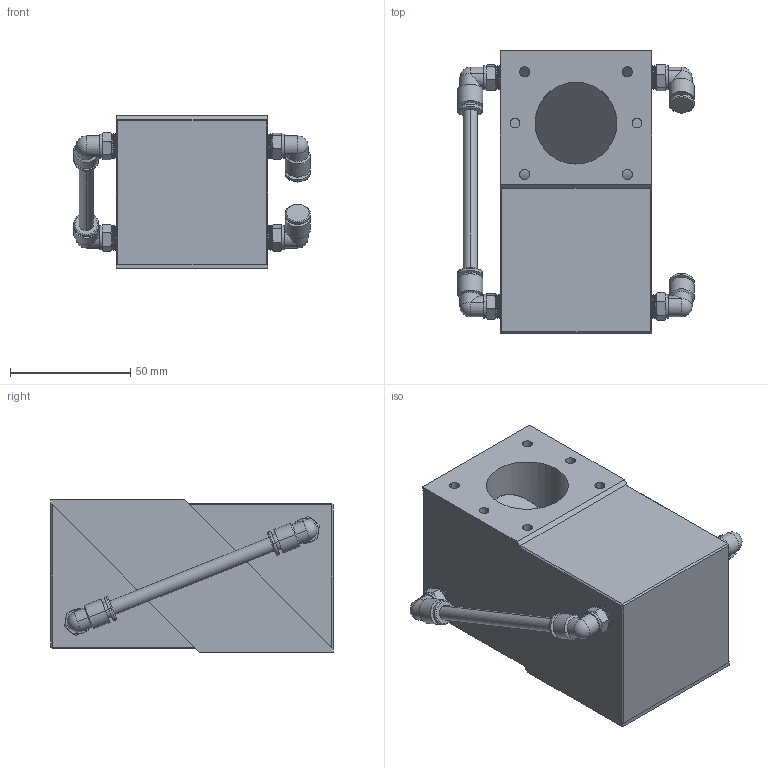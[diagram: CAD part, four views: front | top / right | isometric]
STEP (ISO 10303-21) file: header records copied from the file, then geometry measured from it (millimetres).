
FILE_DESCRIPTION (( 'STEP AP214' ), '1' );
FILE_NAME ('CPU-38-9.4.STEP', '2017-03-09T13:56:29', ( '' ), ( '' ), 'SwSTEP 2.0', 'SolidWorks 2017', '' );
FILE_SCHEMA (( 'AUTOMOTIVE_DESIGN' ));
Length unit declared in the file: inch
Products named in the file (1): CPU-38-9.4
Bounding box: 98.3 x 117.47 x 63.5 mm (x, y, z)
Volume: 408156 mm3; surface area: 51425.5 mm2
Topology: 1 solids, 1 shells, 300 faces, 674 edges, 406 vertices
Faces by surface type: cone 92, plane 88, cylinder 82, bspline 26, torus 8, sphere 4
Entity records: 27374 total; most frequent: CARTESIAN_POINT 21111, ORIENTED_EDGE 1340, DIRECTION 1188, EDGE_CURVE 670, AXIS2_PLACEMENT_3D 487, VERTEX_POINT 406, EDGE_LOOP 336, ADVANCED_FACE 300
